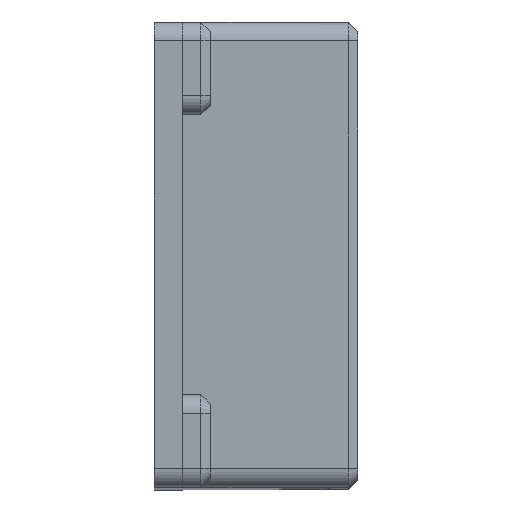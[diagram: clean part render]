
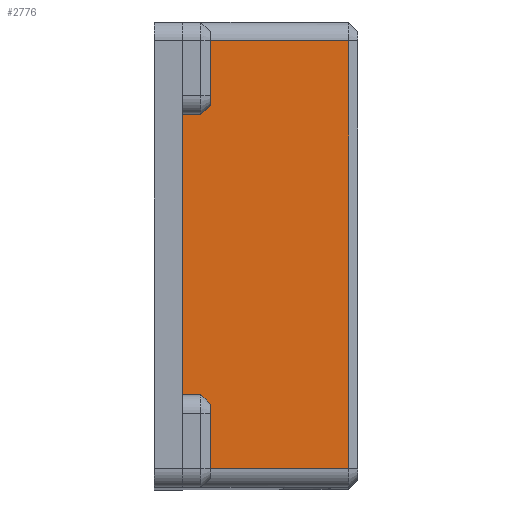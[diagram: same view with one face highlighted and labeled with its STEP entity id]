
A CAD part, top view. The second image highlights one B-rep face of the part: STEP entity #2776.
In plain terms, the highlighted planar face has unit normal (0, 0, 1).
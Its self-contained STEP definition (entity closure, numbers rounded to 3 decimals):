
#228=FACE_OUTER_BOUND('',#1005,.T.);
#278=LINE('',#3979,#545);
#430=LINE('',#4420,#697);
#434=LINE('',#4425,#701);
#438=LINE('',#4436,#705);
#448=LINE('',#4464,#715);
#483=LINE('',#4565,#750);
#498=LINE('',#4609,#765);
#499=LINE('',#4611,#766);
#500=LINE('',#4613,#767);
#501=LINE('',#4614,#768);
#545=VECTOR('',#3140,30.);
#697=VECTOR('',#3552,1.414);
#701=VECTOR('',#3558,2.);
#705=VECTOR('',#3568,1.414);
#715=VECTOR('',#3602,2.);
#750=VECTOR('',#3711,45.8);
#765=VECTOR('',#3768,14.8);
#766=VECTOR('',#3771,6.9);
#767=VECTOR('',#3772,6.9);
#768=VECTOR('',#3773,14.8);
#1005=EDGE_LOOP('',(#2429,#2430,#2431,#2432,#2433,#2434,#2435,#2436,#2437,
#2438));
#1198=VERTEX_POINT('',#3976);
#1199=VERTEX_POINT('',#3978);
#1331=VERTEX_POINT('',#4418);
#1332=VERTEX_POINT('',#4419);
#1335=VERTEX_POINT('',#4434);
#1336=VERTEX_POINT('',#4435);
#1368=VERTEX_POINT('',#4555);
#1370=VERTEX_POINT('',#4561);
#1379=VERTEX_POINT('',#4607);
#1380=VERTEX_POINT('',#4612);
#1448=EDGE_CURVE('',#1198,#1199,#278,.T.);
#1653=EDGE_CURVE('',#1331,#1332,#430,.F.);
#1657=EDGE_CURVE('',#1199,#1331,#434,.T.);
#1661=EDGE_CURVE('',#1335,#1336,#438,.F.);
#1676=EDGE_CURVE('',#1198,#1336,#448,.T.);
#1728=EDGE_CURVE('',#1368,#1370,#483,.T.);
#1750=EDGE_CURVE('',#1379,#1368,#498,.T.);
#1751=EDGE_CURVE('',#1332,#1379,#499,.T.);
#1752=EDGE_CURVE('',#1380,#1335,#500,.T.);
#1753=EDGE_CURVE('',#1380,#1370,#501,.T.);
#2429=ORIENTED_EDGE('',*,*,#1728,.F.);
#2430=ORIENTED_EDGE('',*,*,#1750,.F.);
#2431=ORIENTED_EDGE('',*,*,#1751,.F.);
#2432=ORIENTED_EDGE('',*,*,#1653,.F.);
#2433=ORIENTED_EDGE('',*,*,#1657,.F.);
#2434=ORIENTED_EDGE('',*,*,#1448,.F.);
#2435=ORIENTED_EDGE('',*,*,#1676,.T.);
#2436=ORIENTED_EDGE('',*,*,#1661,.F.);
#2437=ORIENTED_EDGE('',*,*,#1752,.F.);
#2438=ORIENTED_EDGE('',*,*,#1753,.T.);
#2637=PLANE('',#3029);
#2776=ADVANCED_FACE('',(#228),#2637,.T.);
#3029=AXIS2_PLACEMENT_3D('',#4610,#3769,#3770);
#3140=DIRECTION('',(0.,1.,0.));
#3552=DIRECTION('',(-0.707,-0.707,0.));
#3558=DIRECTION('',(1.,0.,0.));
#3568=DIRECTION('',(0.707,-0.707,0.));
#3602=DIRECTION('',(1.,0.,0.));
#3711=DIRECTION('',(0.,-1.,0.));
#3768=DIRECTION('',(1.,0.,0.));
#3769=DIRECTION('center_axis',(0.,0.,1.));
#3770=DIRECTION('ref_axis',(0.,-1.,0.));
#3771=DIRECTION('',(0.,1.,0.));
#3772=DIRECTION('',(0.,1.,0.));
#3773=DIRECTION('',(1.,0.,0.));
#3976=CARTESIAN_POINT('',(3.,5.,-4.5));
#3978=CARTESIAN_POINT('',(3.,35.,-4.5));
#3979=CARTESIAN_POINT('',(3.,31.45,-4.5));
#4418=CARTESIAN_POINT('',(5.,35.,-4.5));
#4419=CARTESIAN_POINT('',(6.,36.,-4.5));
#4420=CARTESIAN_POINT('',(6.725,36.725,-4.5));
#4425=CARTESIAN_POINT('',(3.,35.,-4.5));
#4434=CARTESIAN_POINT('',(6.,4.,-4.5));
#4435=CARTESIAN_POINT('',(5.,5.,-4.5));
#4436=CARTESIAN_POINT('',(-4.725,14.725,-4.5));
#4464=CARTESIAN_POINT('',(3.,5.,-4.5));
#4555=CARTESIAN_POINT('',(20.8,42.9,-4.5));
#4561=CARTESIAN_POINT('',(20.8,-2.9,-4.5));
#4565=CARTESIAN_POINT('',(20.8,43.462,-4.5));
#4607=CARTESIAN_POINT('',(6.,42.9,-4.5));
#4609=CARTESIAN_POINT('',(3.,42.9,-4.5));
#4610=CARTESIAN_POINT('Origin',(3.,42.9,-4.5));
#4611=CARTESIAN_POINT('',(6.,35.,-4.5));
#4612=CARTESIAN_POINT('',(6.,-2.9,-4.5));
#4613=CARTESIAN_POINT('',(6.,-2.9,-4.5));
#4614=CARTESIAN_POINT('',(3.,-2.9,-4.5));
